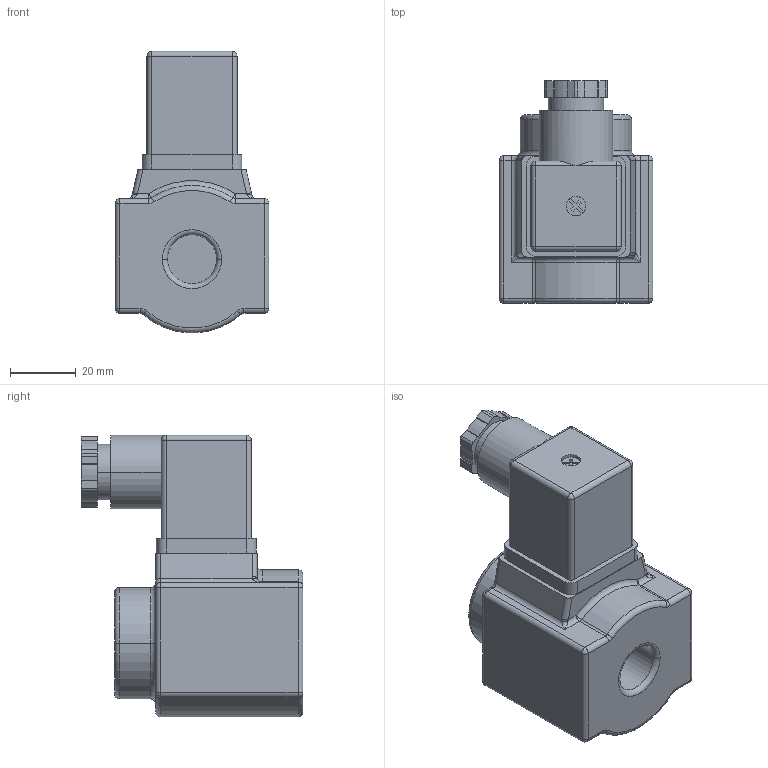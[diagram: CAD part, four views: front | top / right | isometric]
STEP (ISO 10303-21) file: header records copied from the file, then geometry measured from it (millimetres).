
FILE_DESCRIPTION(('STEP AP203'), '1');
FILE_NAME('018F7351.stp', '2011-06-13T20:38:12', ('UNSPECIFIED'), ('UNSPECIFIED'), 'ASCON STEP Converter 1.0', 'Kompas 3D', '');
FILE_SCHEMA(('CONFIG_CONTROL_DESIGN'));
Length unit declared in the file: millimetre
Products named in the file (1): 1
Bounding box: 47 x 67.75 x 85.93 mm (x, y, z)
Volume: 128857.6 mm3; surface area: 21122.7 mm2
Topology: 1 solids, 1 shells, 168 faces, 419 edges, 245 vertices
Faces by surface type: cylinder 67, plane 65, torus 18, sphere 14, bspline 4
Entity records: 6426 total; most frequent: CARTESIAN_POINT 1231, DIRECTION 874, ORIENTED_EDGE 806, EDGE_CURVE 403, AXIS2_PLACEMENT_3D 324, VERTEX_POINT 245, LINE 226, VECTOR 226
